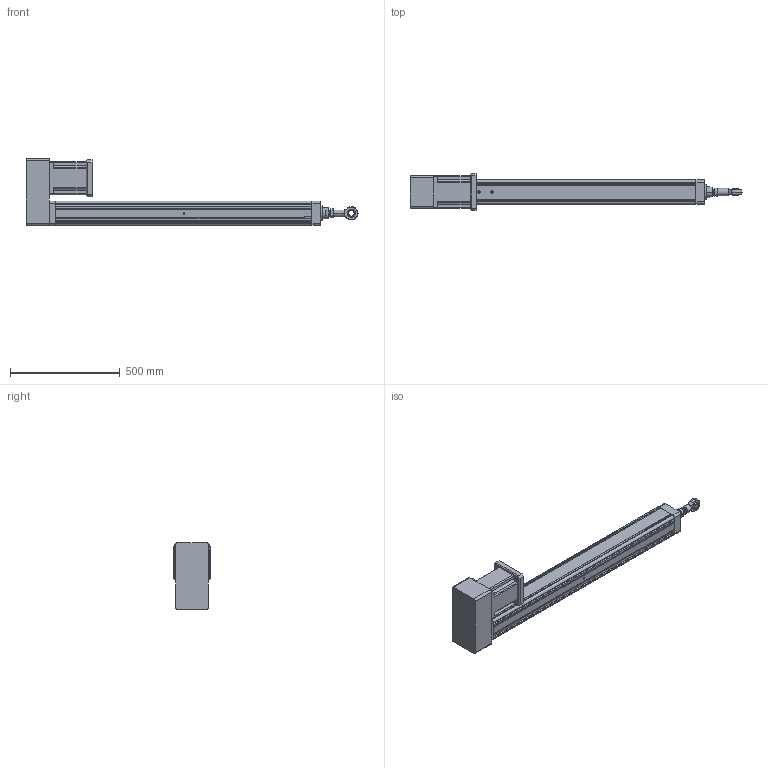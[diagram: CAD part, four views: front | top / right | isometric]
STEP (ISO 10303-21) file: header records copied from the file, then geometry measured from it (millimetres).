
FILE_DESCRIPTION (( 'STEP AP203' ), '1' );
FILE_NAME ('YRJ110-L1000-H1K3.STEP', '2020-01-04T05:56:25', ( 'User' ), ( 'China' ), 'SwSTEP 2.0', 'SolidWorks 2016', '' );
FILE_SCHEMA (( 'CONFIG_CONTROL_DESIGN' ));
Length unit declared in the file: millimetre
Products named in the file (11): 萇儂碟-110; 142熬厒儂; K1-110; _BNC01-SI25T_K-R-001; _BNC01-SI25T_K-R-002; BNC01-SI25T_K-R; 095-100俴最倰第; K3-110; H1-110-1; YRJ110-L1000-H1K3; H1-110-2
Assembly tree (10 placements, depth 4):
  YRJ110-L1000-H1K3
    095-100俴最倰第
    H1-110-1
    H1-110-2
    萇儂碟-110
    142熬厒儂
    K3-110
      K1-110
      BNC01-SI25T_K-R
        _BNC01-SI25T_K-R-001
        _BNC01-SI25T_K-R-002
Bounding box: 1515 x 168 x 305.5 mm (x, y, z)
Volume: 14700073 mm3; surface area: 1519413.8 mm2
Topology: 8 solids, 8 shells, 401 faces, 1105 edges, 705 vertices
Faces by surface type: plane 175, cylinder 170, cone 42, bspline 14
Entity records: 22805 total; most frequent: CARTESIAN_POINT 11707, ORIENTED_EDGE 2138, DIRECTION 2004, EDGE_CURVE 1069, VERTEX_POINT 705, AXIS2_PLACEMENT_3D 682, VECTOR 640, LINE 640
